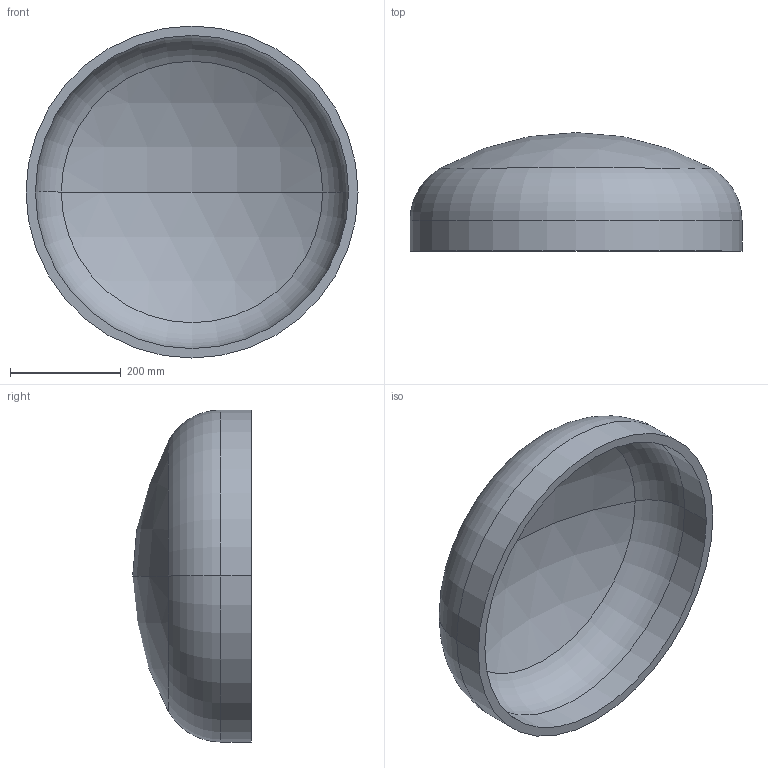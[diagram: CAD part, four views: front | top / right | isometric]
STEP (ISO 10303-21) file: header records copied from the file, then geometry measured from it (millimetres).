
FILE_DESCRIPTION (( 'STEP AP203' ), '1' );
FILE_NAME ('DIN 28013 Korbbogenform_-_Boden DIN 28013 - 600 x 55 - I - s=17.step', '2016-07-01T07:57:58', ( '' ), ( '' ), 'SwSTEP 2.0', 'SolidWorks 2013', '' );
FILE_SCHEMA (( 'CONFIG_CONTROL_DESIGN' ));
Length unit declared in the file: millimetre
Products named in the file (1): DIN 28013 Korbbogenform_-_Boden DIN 28013 - 600 x 55 - I - s=17
Bounding box: 600 x 214.27 x 600 mm (x, y, z)
Volume: 8121827.2 mm3; surface area: 987250.4 mm2
Topology: 1 solids, 1 shells, 13 faces, 24 edges, 14 vertices
Faces by surface type: torus 4, cylinder 4, sphere 4, plane 1
Entity records: 407 total; most frequent: DIRECTION 72, CARTESIAN_POINT 52, ORIENTED_EDGE 48, AXIS2_PLACEMENT_3D 34, EDGE_CURVE 24, CIRCLE 20, EDGE_LOOP 14, VERTEX_POINT 14
